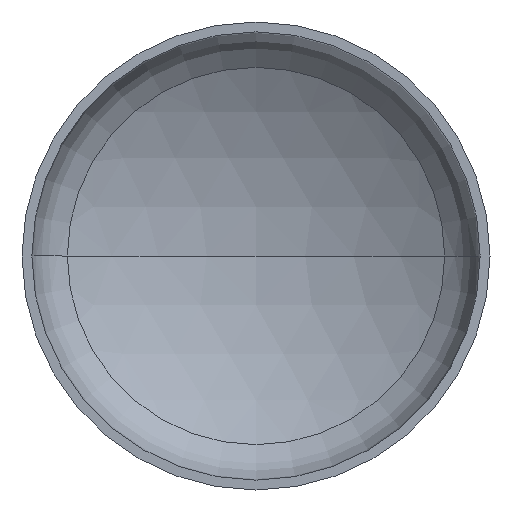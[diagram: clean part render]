
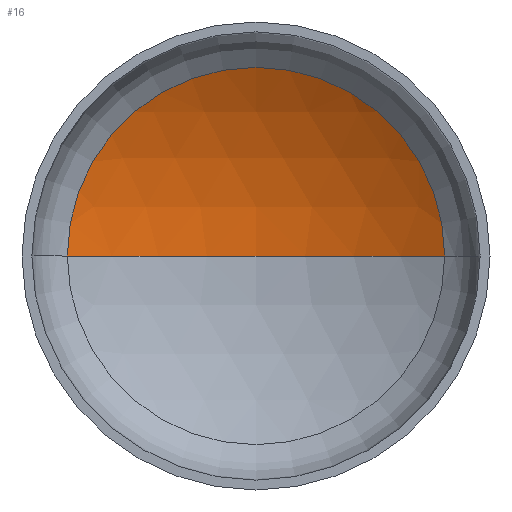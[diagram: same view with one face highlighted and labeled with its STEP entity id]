
A CAD part, front view. The second image highlights one B-rep face of the part: STEP entity #16.
In plain terms, the highlighted spherical face has radius 1440 mm.
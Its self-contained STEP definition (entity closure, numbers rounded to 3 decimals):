
#11 = VERTEX_POINT ( 'NONE', #282 ) ;
#13 = EDGE_LOOP ( 'NONE', ( #98, #63, #88 ) ) ;
#16 = ADVANCED_FACE ( 'NONE', ( #335 ), #267, .F. ) ;
#17 = DIRECTION ( 'NONE',  ( 0., -1., 0. ) ) ;
#23 = CARTESIAN_POINT ( 'NONE',  ( 0., 357.541, 0. ) ) ;
#60 = AXIS2_PLACEMENT_3D ( 'NONE', #212, #222, #217 ) ;
#63 = ORIENTED_EDGE ( 'NONE', *, *, #150, .T. ) ;
#64 = AXIS2_PLACEMENT_3D ( 'NONE', #183, #210, #378 ) ;
#65 = VERTEX_POINT ( 'NONE', #256 ) ;
#68 = AXIS2_PLACEMENT_3D ( 'NONE', #23, #17, #122 ) ;
#70 = CIRCLE ( 'NONE', #68, 725.562 ) ;
#88 = ORIENTED_EDGE ( 'NONE', *, *, #148, .T. ) ;
#98 = ORIENTED_EDGE ( 'NONE', *, *, #153, .F. ) ;
#118 = VERTEX_POINT ( 'NONE', #324 ) ;
#121 = AXIS2_PLACEMENT_3D ( 'NONE', #244, #361, #284 ) ;
#122 = DIRECTION ( 'NONE',  ( 1., 0., 0. ) ) ;
#148 = EDGE_CURVE ( 'NONE', #11, #65, #70, .T. ) ;
#150 = EDGE_CURVE ( 'NONE', #118, #11, #372, .T. ) ;
#153 = EDGE_CURVE ( 'NONE', #118, #65, #312, .T. ) ;
#183 = CARTESIAN_POINT ( 'NONE',  ( 0., -886.308, 0. ) ) ;
#210 = DIRECTION ( 'NONE',  ( 0., 0., -1. ) ) ;
#212 = CARTESIAN_POINT ( 'NONE',  ( 0., -886.308, 0. ) ) ;
#217 = DIRECTION ( 'NONE',  ( 1., 0., 0. ) ) ;
#222 = DIRECTION ( 'NONE',  ( 0., 0., 1. ) ) ;
#244 = CARTESIAN_POINT ( 'NONE',  ( 0., -886.308, 0. ) ) ;
#256 = CARTESIAN_POINT ( 'NONE',  ( -725.562, 357.541, 0. ) ) ;
#267 = SPHERICAL_SURFACE ( 'NONE', #121, 1440. ) ;
#282 = CARTESIAN_POINT ( 'NONE',  ( 725.562, 357.541, 0. ) ) ;
#284 = DIRECTION ( 'NONE',  ( -1., 0., 0. ) ) ;
#312 = CIRCLE ( 'NONE', #60, 1440. ) ;
#324 = CARTESIAN_POINT ( 'NONE',  ( 0., 553.692, 0. ) ) ;
#335 = FACE_OUTER_BOUND ( 'NONE', #13, .T. ) ;
#361 = DIRECTION ( 'NONE',  ( 0., 0., -1. ) ) ;
#372 = CIRCLE ( 'NONE', #64, 1440. ) ;
#378 = DIRECTION ( 'NONE',  ( -1., 0., 0. ) ) ;
